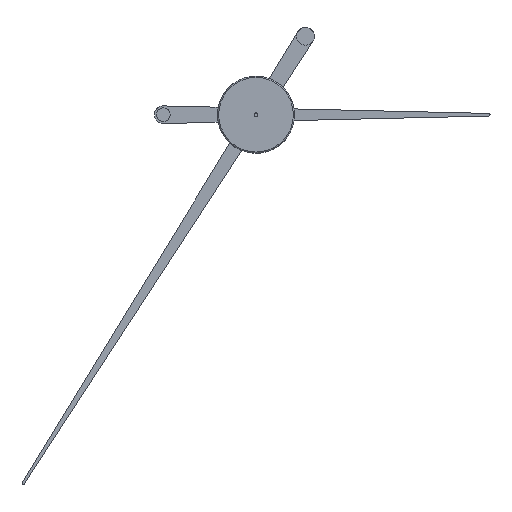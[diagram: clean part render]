
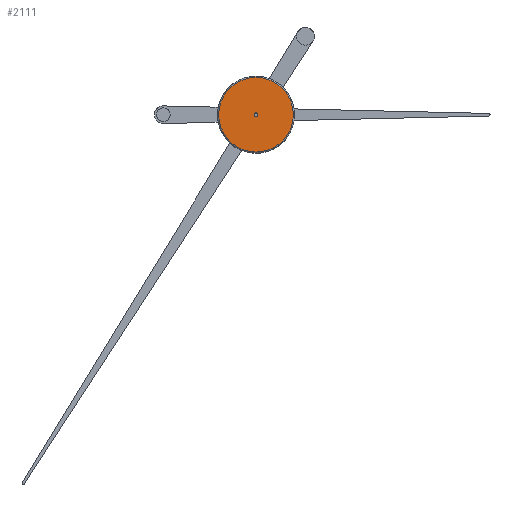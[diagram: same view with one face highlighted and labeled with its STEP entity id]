
A CAD part, front view. The second image highlights one B-rep face of the part: STEP entity #2111.
In plain terms, the highlighted planar face has unit normal (0, -1, 0).
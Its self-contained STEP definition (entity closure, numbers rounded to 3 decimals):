
#126 = VERTEX_POINT ( 'NONE', #5942 ) ;
#211 = AXIS2_PLACEMENT_3D ( 'NONE', #5085, #3159, #5574 ) ;
#236 = VERTEX_POINT ( 'NONE', #4240 ) ;
#316 = ORIENTED_EDGE ( 'NONE', *, *, #3895, .T. ) ;
#555 = CARTESIAN_POINT ( 'NONE',  ( 43.3, -19.5, 0. ) ) ;
#558 = FACE_BOUND ( 'NONE', #2255, .T. ) ;
#596 = DIRECTION ( 'NONE',  ( 0., 0., -1. ) ) ;
#699 = CIRCLE ( 'NONE', #1351, 2. ) ;
#871 = CARTESIAN_POINT ( 'NONE',  ( 43.3, -19.5, 0. ) ) ;
#899 = DIRECTION ( 'NONE',  ( 0., 0., -1. ) ) ;
#1351 = AXIS2_PLACEMENT_3D ( 'NONE', #871, #1840, #4308 ) ;
#1508 = EDGE_CURVE ( 'NONE', #4795, #126, #4752, .T. ) ;
#1708 = CIRCLE ( 'NONE', #5748, 42.3 ) ;
#1840 = DIRECTION ( 'NONE',  ( 0., 1., 0. ) ) ;
#1907 = CARTESIAN_POINT ( 'NONE',  ( 43.3, -19.5, -42.3 ) ) ;
#1975 = VERTEX_POINT ( 'NONE', #1907 ) ;
#2111 = ADVANCED_FACE ( 'NONE', ( #558, #2670 ), #5598, .F. ) ;
#2183 = ORIENTED_EDGE ( 'NONE', *, *, #1508, .T. ) ;
#2249 = EDGE_CURVE ( 'NONE', #126, #4795, #699, .T. ) ;
#2255 = EDGE_LOOP ( 'NONE', ( #3890, #2183 ) ) ;
#2670 = FACE_OUTER_BOUND ( 'NONE', #5050, .T. ) ;
#2968 = DIRECTION ( 'NONE',  ( 0., 1., 0. ) ) ;
#3159 = DIRECTION ( 'NONE',  ( 0., 1., 0. ) ) ;
#3541 = EDGE_CURVE ( 'NONE', #236, #1975, #1708, .T. ) ;
#3890 = ORIENTED_EDGE ( 'NONE', *, *, #2249, .T. ) ;
#3895 = EDGE_CURVE ( 'NONE', #1975, #236, #4849, .T. ) ;
#4094 = AXIS2_PLACEMENT_3D ( 'NONE', #555, #2968, #5357 ) ;
#4240 = CARTESIAN_POINT ( 'NONE',  ( 43.3, -19.5, 42.3 ) ) ;
#4308 = DIRECTION ( 'NONE',  ( 0., 0., 1. ) ) ;
#4385 = CARTESIAN_POINT ( 'NONE',  ( 43.3, -19.5, 0. ) ) ;
#4403 = DIRECTION ( 'NONE',  ( 0., -1., 0. ) ) ;
#4486 = ORIENTED_EDGE ( 'NONE', *, *, #3541, .T. ) ;
#4524 = CARTESIAN_POINT ( 'NONE',  ( 43.3, -19.5, -2. ) ) ;
#4714 = AXIS2_PLACEMENT_3D ( 'NONE', #4385, #4403, #596 ) ;
#4727 = CARTESIAN_POINT ( 'NONE',  ( 43.3, -19.5, 0. ) ) ;
#4752 = CIRCLE ( 'NONE', #4094, 2. ) ;
#4795 = VERTEX_POINT ( 'NONE', #4524 ) ;
#4849 = CIRCLE ( 'NONE', #4714, 42.3 ) ;
#5050 = EDGE_LOOP ( 'NONE', ( #316, #4486 ) ) ;
#5085 = CARTESIAN_POINT ( 'NONE',  ( 1., -19.5, 0. ) ) ;
#5357 = DIRECTION ( 'NONE',  ( 0., 0., 1. ) ) ;
#5574 = DIRECTION ( 'NONE',  ( 0., 0., 1. ) ) ;
#5598 = PLANE ( 'NONE',  #211 ) ;
#5748 = AXIS2_PLACEMENT_3D ( 'NONE', #4727, #6096, #899 ) ;
#5942 = CARTESIAN_POINT ( 'NONE',  ( 43.3, -19.5, 2. ) ) ;
#6096 = DIRECTION ( 'NONE',  ( 0., -1., 0. ) ) ;
